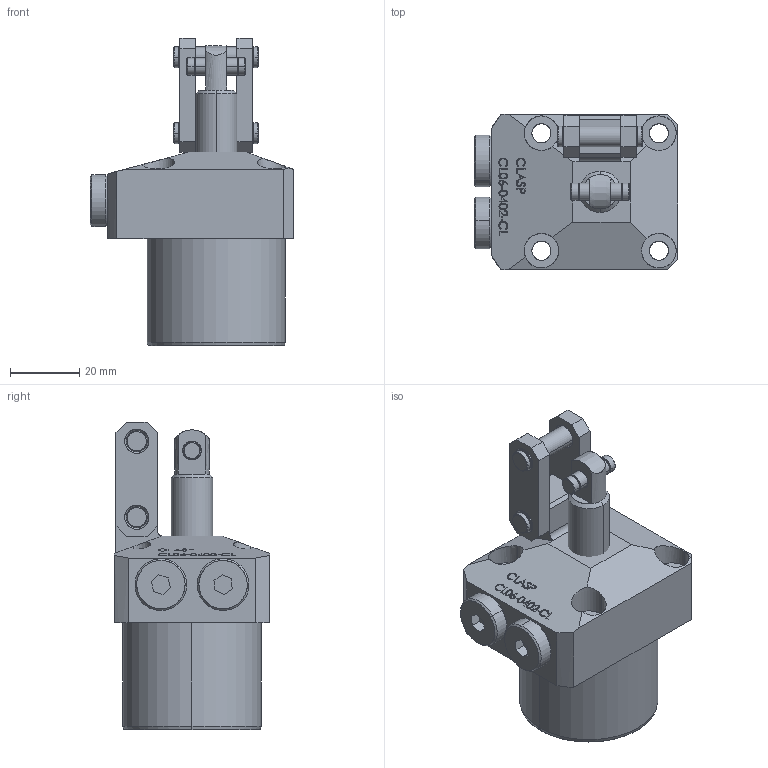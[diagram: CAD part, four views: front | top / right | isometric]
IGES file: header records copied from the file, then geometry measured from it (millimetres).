
Start section: SolidWorks IGES file using analytic representation for surfaces
Global section: file name: D:\karuppas\Clasp\3D model\Link clamp cylinder\CL06-0402-CL\CLO6-0402 c;l.IGS; native system: SolidWorks 2017; preprocessor: SolidWorks 2017; author: pc; date: 220705.225018; units: millimetre
Bounding box: 59 x 45 x 89 mm (x, y, z)
Surface area: 24199.6 mm2 (no closed solid volume)
Topology: 0 solids, 0 shells, 414 faces, 6126 edges, 6122 vertices
Faces by surface type: bspline 279, revolution 135
